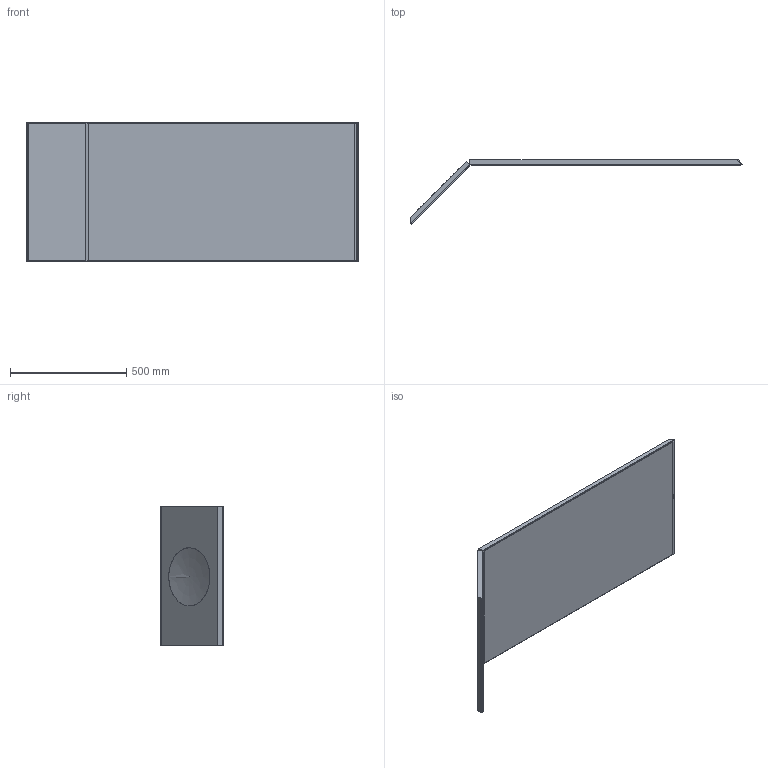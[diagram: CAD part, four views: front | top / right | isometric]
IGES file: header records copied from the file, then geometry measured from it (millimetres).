
Start section: Data from Parasolid IGES Translator 19.0.9, Copyright(c) 2006 Siemens PL M Software. All Rights Reserved.
Global section: file name: noorth-mirror-H 60 D 2,5 W 153_4241.igs; native system: By Siemens PLM Incorporated; preprocessor: XPlus GENERIC/IGES 19.0.9; author: Noname; organization: Noname; date: 20210721.092517; units: metre
Bounding box: 1427.36 x 274.85 x 600 mm (x, y, z)
Volume: 20491859.9 mm3; surface area: 3919555.4 mm2
Topology: 7 solids, 7 shells, 101 faces, 215 edges, 127 vertices
Faces by surface type: plane 83, cylinder 15, bspline 3
Full cylindrical faces by diameter (mm): 250 x1
